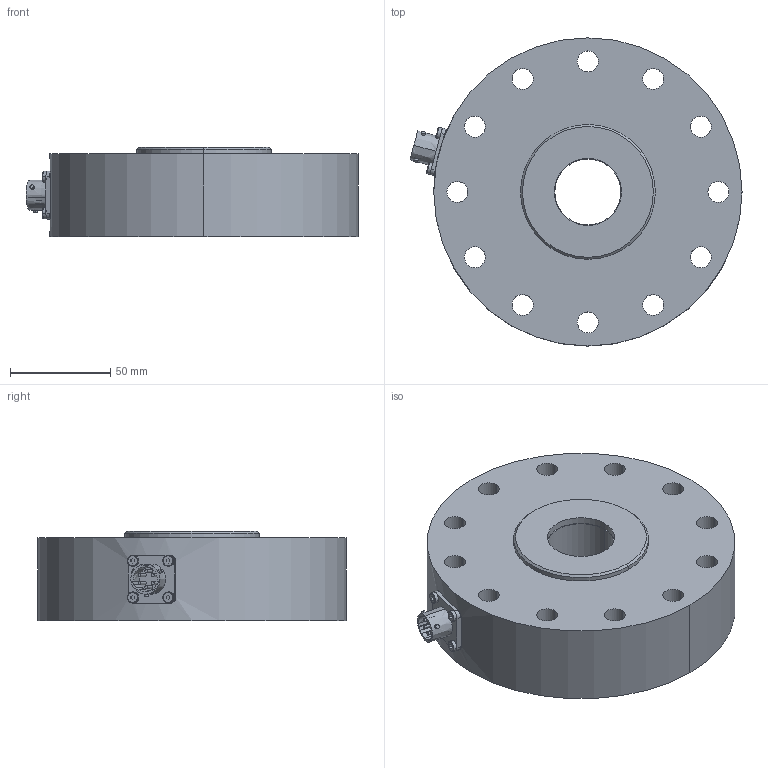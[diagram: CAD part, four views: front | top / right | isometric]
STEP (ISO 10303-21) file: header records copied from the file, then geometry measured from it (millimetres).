
FILE_DESCRIPTION((''),'2;1');
FILE_NAME('U10M_N_125KN','2019-03-12T',('esche'),(''),'CREO PARAMETRIC BY PTC INC, 2017170','CREO PARAMETRIC BY PTC INC, 2017170','');
FILE_SCHEMA(('AUTOMOTIVE_DESIGN { 1 0 10303 214 1 1 1 1 }'));
Length unit declared in the file: millimetre
Products named in the file (1): U10M_N_125KN
Bounding box: 165.78 x 153.9 x 44.5 mm (x, y, z)
Volume: 682207.6 mm3; surface area: 77717.5 mm2
Topology: 1 solids, 2 shells, 179 faces, 473 edges, 310 vertices
Faces by surface type: bspline 179
Entity records: 7922 total; most frequent: CARTESIAN_POINT 3741, ORIENTED_EDGE 946, DIRECTION 663, EDGE_CURVE 473, VERTEX_POINT 310, VECTOR 225, LINE 225, AXIS2_PLACEMENT_3D 219
